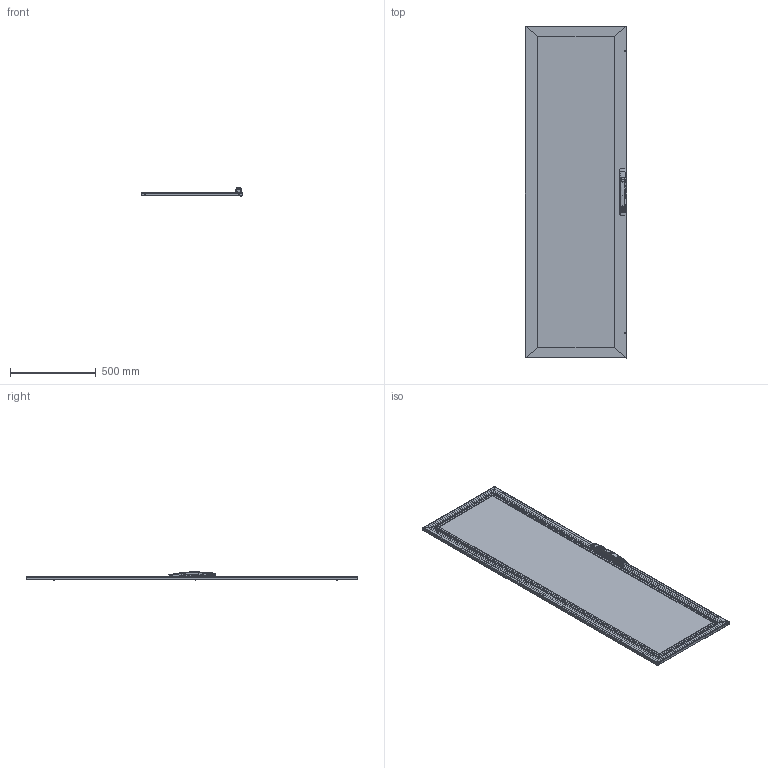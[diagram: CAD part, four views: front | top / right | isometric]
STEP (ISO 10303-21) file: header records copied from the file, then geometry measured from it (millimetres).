
FILE_DESCRIPTION (( 'STEP AP203' ), '1' );
FILE_NAME ('pdwg206b.STEP', '2013-10-16T10:39:35', ( '' ), ( '' ), 'SwSTEP 2.0', 'SolidWorks 2010', '' );
FILE_SCHEMA (( 'CONFIG_CONTROL_DESIGN' ));
Length unit declared in the file: inch
Products named in the file (48): 21458331_21458331; 21458325; 60127289_60127289; 60127173_60127173; 51232001_51232001; 60127277_60127277; 11158133_11581133; 11158132_THIKNESS .155 FIXED; 60127139_60127139; 87576035_87576035; 60127138_60127138; 60127140_60127140; 60127216_60127216; 60127175_60127175; 60127106_60127106; 60127224_60127224; 60127207; 46139001_46139001; 60127212; 60127208; 51137001; 60127093; 51138001_Compressed; 51223001; 46120001_Compressed; 11358765; 51145001_Extended; 11258014; 51231001; 11358763; 11258012; 11258013; 11358764; 51140001; 11458036; 11458037; 60127430; 87560473_87560473; 87950833_87950833; 87950696_87950696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
Assembly tree (73 placements, depth 4):
  pdwg206b
    60127289_60127289
    21458331_21458331  x2
    21458325  x2
    60127224_60127224
      11158132_THIKNESS .155 FIXED  x8
      60127216_60127216  x3
        87576035_87576035
        60127138_60127138
        60127140_60127140
      60127139_60127139  x4
      60127106_60127106
      11158133_11581133  x3
      60127175_60127175  x2
    60127277_60127277  x3
      60127173_60127173
      51232001_51232001
    20127481_20127481
      31127347_31127347
        87939353  x3
        11458684_11458684
        87939351_PEM FH-M4-8 X--C  x3
      31127338_31127338  x2
      87560473_87560473  x2
      87950696_87950696
      87950833_87950833
      31127358_31127358
    60127430
      46139001_46139001  x2
      51231001
      51140001
      11358764
      11358763
      11258012
      51138001_Compressed
      11458037
      51223001
      60127208
      51137001
      60127212
      60127207
      51145001_Extended
      46120001_Compressed
      11258014
      11358765
      11458036
      11258013
      60127093
Bounding box: 592.91 x 1939 x 48.68 mm (x, y, z)
Volume: 7359358.3 mm3; surface area: 3659303 mm2
Topology: 73 solids, 73 shells, 3780 faces, 9860 edges, 6296 vertices
Faces by surface type: plane 1811, cylinder 1117, cone 311, torus 274, bspline 178, sphere 89
Entity records: 93660 total; most frequent: CARTESIAN_POINT 25967, ORIENTED_EDGE 13258, DIRECTION 12533, EDGE_CURVE 6629, AXIS2_PLACEMENT_3D 4373, VERTEX_POINT 4276, LINE 3787, VECTOR 3787
